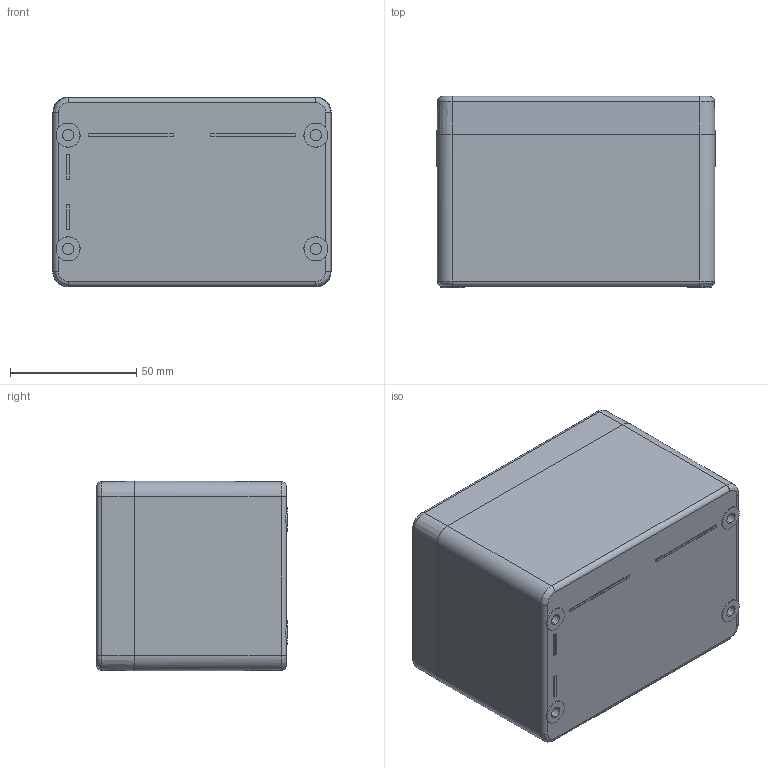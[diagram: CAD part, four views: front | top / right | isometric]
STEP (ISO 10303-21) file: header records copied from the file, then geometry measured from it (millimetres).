
FILE_DESCRIPTION((''),'2;1');
FILE_NAME('5154000050_ASM','2023-12-13T10:59:33',('silke.otte'),(''),'CREO PARAMETRIC BY PTC INC, 2022124','CREO PARAMETRIC BY PTC INC, 2022124','');
FILE_SCHEMA(('AUTOMOTIVE_DESIGN { 1 0 10303 214 1 1 1 1 }'));
Length unit declared in the file: millimetre
Products named in the file (14): 9331032000; EINPRESSMUTTER_M4; EINPRESSMUTTER_M4_AF21; EINPRESSMUTTER_M4_AF20; EINPRESSMUTTER_M4_AF23; EINPRESSMUTTER_M4_AF22; 9341032000_ASM; 9332002000; CP-DICHTUNG_35; 9614003200_ASM; 9262004000; 9261014000; 9258857000; 5154000050_ASM
Assembly tree (21 placements, depth 3):
  5154000050_ASM
    9341032000_ASM
      9331032000
      EINPRESSMUTTER_M4  x2
      EINPRESSMUTTER_M4_AF21
      EINPRESSMUTTER_M4_AF20
      EINPRESSMUTTER_M4_AF23
      EINPRESSMUTTER_M4_AF22
    9614003200_ASM
      9332002000
      CP-DICHTUNG_35
    9262004000  x4
    9261014000  x4
    9258857000  x2
Bounding box: 110 x 75.5 x 75 mm (x, y, z)
Volume: 191955.4 mm3; surface area: 101214.6 mm2
Topology: 19 solids, 29 shells, 703 faces, 3953 edges, 5434 vertices
Faces by surface type: plane 297, cone 184, cylinder 174, bspline 24, torus 24
Entity records: 33466 total; most frequent: CARTESIAN_POINT 7293, DIRECTION 3825, ORIENTED_EDGE 2318, PRESENTATION_STYLE_ASSIGNMENT 1494, STYLED_ITEM 1483, CURVE_STYLE 1462, AXIS2_PLACEMENT_3D 1333, EDGE_CURVE 1170
